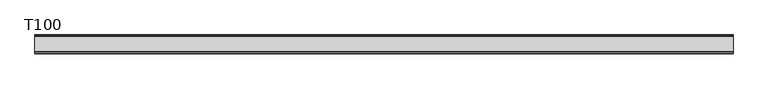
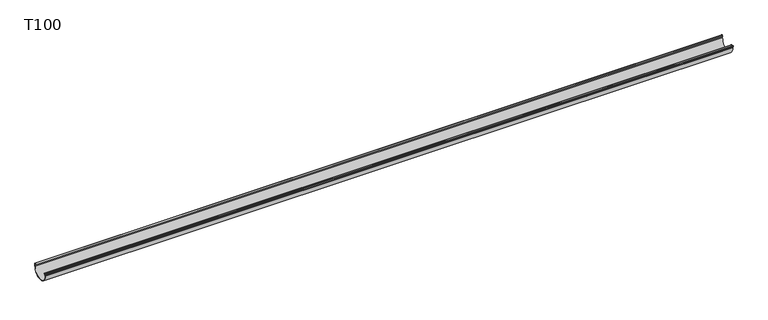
"""IFC4 building model written with IfcOpenShell, lengths in millimetres: proxy geometry, GROVIK_Gutter_Straight : T100."""

from ifc_helpers import new_model, si_unit, point, frame, frame_2d, origin, place, context, project, spatial, polyline, circle_curve, trimmed, segment, composite_curve, outline, extrude, source, transform, mapped, element, save


def t100_f3096ea2(model_context):
    return source(origin(), model_context, "Body", "SweptSolid", [
        extrude(outline(composite_curve([segment(polyline([(95.6785725, 12.9222473), (94.8220658, 3.1323306), (104.7816977, 1.3761787), (105.2998033, 7.2981526), (98.3413035, 6.0711814), (98.1850202, 6.9575084), (105.0151773, 8.1618494)]), True, "CONTINUOUS"), segment(trimmed(circle_curve(frame_2d((105.1888255, 7.1770416)), 1.0), [point((105.0151773, 8.1618494))], [point((106.1850202, 7.0898858))], False, "CARTESIAN"), True, "CONTINUOUS"), segment(polyline([(106.1850202, 7.0898858), (105.6885136, 1.4147892)]), True, "CONTINUOUS"), segment(trimmed(circle_curve(frame_2d((104.6923189, 1.501945)), 1.0), [point((105.6885136, 1.4147892))], [point((104.6051631, 0.5057503))], False, "CARTESIAN"), True, "CONTINUOUS"), segment(polyline([(104.6051631, 0.5057503), (94.7570856, 2.242232)]), True, "CONTINUOUS"), segment(trimmed(circle_curve(frame_2d((94.9307338, 3.2270397)), 1.0), [point((94.7570856, 2.242232))], [point((93.9345391, 3.3141955))], False, "CARTESIAN"), True, "CONTINUOUS"), segment(polyline([(93.9345391, 3.3141955), (94.7746841, 12.9170968)]), True, "CONTINUOUS"), segment(trimmed(circle_curve(frame_2d((95.683723, 12.9170968)), 0.909039), [point((94.7746841, 12.9170968))], [point((95.683723, 13.8261357))], False, "CARTESIAN"), True, "CONTINUOUS"), segment(polyline([(95.683723, 13.8261357), (100.9, 14.2825008), (100.9, 16.3578028)]), True, "CONTINUOUS"), segment(trimmed(circle_curve(frame_2d((50.9, 16.3578028)), 50.0), [point((100.9, 16.3578028))], [point((0.9, 16.3578028))], True, "CARTESIAN"), True, "CONTINUOUS"), segment(polyline([(0.9, 16.3578028), (0.9, 1.3578028), (5.6494755, 5.343086), (6.2279844, 4.6536459), (0.8213938, 0.1169778)]), True, "CONTINUOUS"), segment(trimmed(circle_curve(frame_2d((0.5, 0.5000001)), 0.5), [point((0.8213938, 0.1169778))], [point((0.0, 0.5000001))], False, "CARTESIAN"), True, "CONTINUOUS"), segment(polyline([(0.0, 0.5000001), (0.0, 16.3578028)]), True, "CONTINUOUS"), segment(trimmed(circle_curve(frame_2d((50.9, 16.3578028)), 50.9), [point((0.0, 16.3578028))], [point((101.8, 16.3578028))], False, "CARTESIAN"), True, "CONTINUOUS"), segment(polyline([(101.8, 16.3578028), (101.8, 14.374134)]), True, "CONTINUOUS"), segment(trimmed(circle_curve(frame_2d((100.8, 14.374134)), 1.0), [point((101.8, 14.374134))], [point((100.8871557, 13.3779393))], False, "CARTESIAN"), True, "CONTINUOUS"), segment(polyline([(100.8871557, 13.3779393), (95.6785725, 12.9222473)]), True, "CONTINUOUS")], self_intersect=False)), frame((45.0, 0.0, 0.0), z_axis=(0.999999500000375, 0.0, 0.00099999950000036), x_axis=(0.0, -1.0, 0.0)), (0.0, 0.0, 1.0), 3919.9863259),
    ])


if __name__ == "__main__":
    model = new_model("IFC4")
    model_context = context("Model", 3, world=origin())
    ifc_project = project(units=[si_unit("LENGTHUNIT", "METRE", prefix="MILLI")], contexts=[model_context])
    site = spatial("IfcSite", under=ifc_project)
    building = spatial("IfcBuilding", under=site)
    placement = place(None, origin())
    t100_shape = t100_f3096ea2(model_context)
    element("IfcBuildingElementProxy", 1, Name="GROVIK_Gutter_Straight : T100", ObjectType="GROVIK_Gutter_Straight : T100", at=placement, inside=building, context=model_context, shape_type="MappedRepresentation", body=[
        mapped(t100_shape, transform((0.0, 0.0, 0.0), x_axis=(1.0, 0.0, 0.0), y_axis=(0.0, 1.0, 0.0), z_axis=(0.0, 0.0, 1.0))),
    ])
    save(model, "model.ifc")
